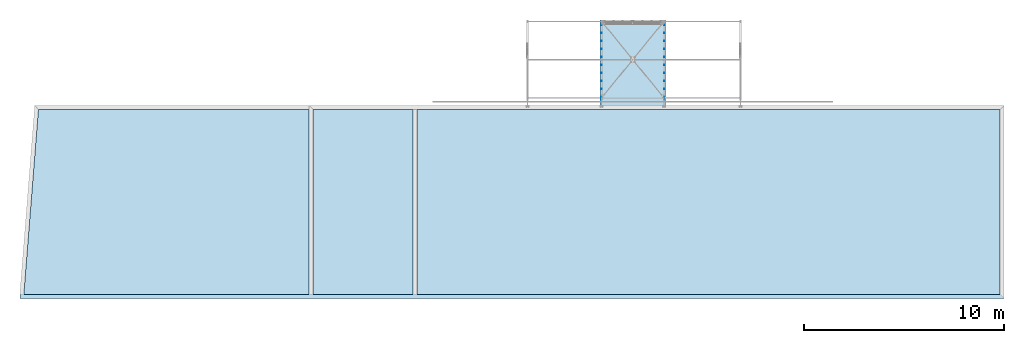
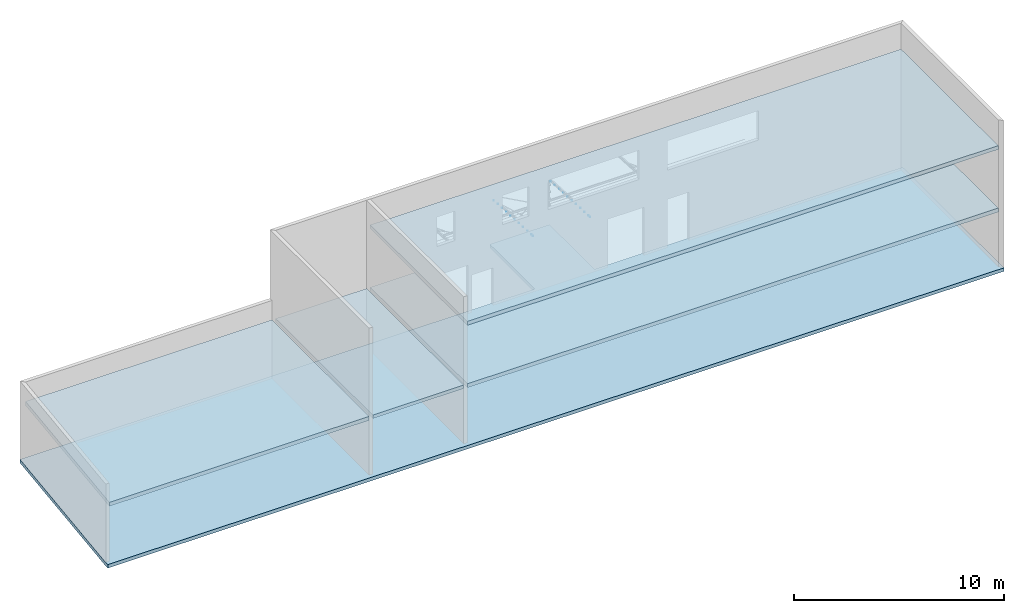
# One storey, part 5 of 10: 5 slabs, 2 mechanical fasteners, 5 elements without a shape of their own.
"""IFC2X3 building model written with IfcOpenShell, lengths in millimetres."""

from ifc_helpers import new_model, si_unit, frame, frame_2d, origin_with_axes, place, context, subcontext, project, spatial, polyline, circle_curve, parameter, trimmed, segment, composite_curve, outline, extrude, source, transform, mapped, material, type_object, element, aggregate, save


model = new_model("IFC2X3")

# Units and contexts
model_context = context("Model", 3, precision=1e-05, world=origin_with_axes())
body_context = subcontext(model_context, "Body", "Model", "MODEL_VIEW")
ifc_project = project(units=[si_unit("LENGTHUNIT", "METRE", prefix="MILLI"), si_unit("AREAUNIT", "SQUARE_METRE"), si_unit("VOLUMEUNIT", "CUBIC_METRE"), si_unit("MASSUNIT", "GRAM", prefix="KILO"), si_unit("TIMEUNIT", "SECOND"), si_unit("PLANEANGLEUNIT", "RADIAN"), si_unit("SOLIDANGLEUNIT", "STERADIAN"), si_unit("THERMODYNAMICTEMPERATUREUNIT", "DEGREE_CELSIUS"), si_unit("LUMINOUSINTENSITYUNIT", "LUMEN")], contexts=[model_context])

# Site, building, storey
site_placement = place(None, origin_with_axes())
site = spatial("IfcSite", under=ifc_project, at=site_placement, Name="Undefined", CompositionType="ELEMENT")
building_placement = place(site_placement, origin_with_axes())
building = spatial("IfcBuilding", under=site, at=building_placement, Name="Undefined", CompositionType="ELEMENT")
storey_placement = place(building_placement, origin_with_axes())
storey = spatial("IfcBuildingStorey", under=building, at=storey_placement, Name="Undefined", CompositionType="ELEMENT", Elevation=0.0)

# Assembly, slab
assembly_1_placement = place(storey_placement, origin_with_axes())
assembly_1 = element("IfcElementAssembly", 1, at=assembly_1_placement, inside=storey, Name="DALLE", AssemblyPlace="NOTDEFINED", PredefinedType="REINFORCEMENT_UNIT")
ifc_material_1 = material(Name="CONCRETE/C25/30")
slab_type_1 = type_object("IfcSlabType", Name="200*5000", PredefinedType="NOTDEFINED")
slab_1_placement = place(assembly_1_placement, frame((14455.0, 24839.9999999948, 3325.0), z_axis=(0.0, 0.0, 1.0), x_axis=(-8.92000021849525e-07, -0.999999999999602, 0.0)))
slab_1 = element("IfcSlab", 2, at=slab_1_placement, type_object=slab_type_1, material=ifc_material_1, Name="DALLE", ObjectType="200*5000", PredefinedType="FLOOR", context=body_context, shape_type="SweptSolid", body=[
    extrude(outline(polyline([(0.0, 0.0), (9250.0, 3.63797880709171e-12), (9250.0009765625, 4999.998046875), (0.000105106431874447, 5000.0), (0.0, 0.0)])), frame((-2.18278728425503e-10, 2.72848410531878e-10, -100.0), z_axis=(0.0, 0.0, 1.0), x_axis=(1.0, 0.0, 0.0)), (0.0, 0.0, 1.0), 200.0),
])
aggregate(assembly_1, [slab_1])

assembly_2_placement = place(storey_placement, origin_with_axes())
assembly_2 = element("IfcElementAssembly", 3, at=assembly_2_placement, inside=storey, Name="DALLE", AssemblyPlace="NOTDEFINED", PredefinedType="REINFORCEMENT_UNIT")
slab_type_2 = type_object("IfcSlabType", Name="200*13930", PredefinedType="NOTDEFINED")
slab_2_placement = place(assembly_2_placement, frame((521.592823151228, 25040.0000000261, -100.0), z_axis=(0.0, 0.0, 1.0), x_axis=(-0.0788018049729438, -0.996890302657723, 0.0)))
slab_2 = element("IfcSlab", 4, at=slab_2_placement, type_object=slab_type_2, material=ifc_material_1, Name="DALLE", ObjectType="200*13930", PredefinedType="FLOOR", context=body_context, shape_type="SweptSolid", body=[
    extrude(outline(polyline([(0.0, 0.0), (9347.4101561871, -3.21924744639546e-08), (9678.03613274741, 26.1351794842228), (5797.20556643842, 49120.988281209), (-3822.78637685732, 48360.5507812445), (-2487.88403314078, 31473.2304687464), (-6754.57421865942, 31135.9570312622), (-6496.1044921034, 27866.1582031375), (-2229.41406244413, 28203.4296874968), (0.0, 0.0)])), frame((-2.18278728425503e-10, 2.72848410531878e-10, -100.0), z_axis=(0.0, 0.0, 1.0), x_axis=(1.0, 0.0, 0.0)), (0.0, 0.0, 1.0), 200.0),
])
aggregate(assembly_2, [slab_2])

assembly_3_placement = place(storey_placement, origin_with_axes())
assembly_3 = element("IfcElementAssembly", 5, at=assembly_3_placement, inside=storey, Name="DALLE", AssemblyPlace="NOTDEFINED", PredefinedType="REINFORCEMENT_UNIT")
slab_type_3 = type_object("IfcSlabType", Name="230*9250", PredefinedType="NOTDEFINED")
slab_3_placement = place(assembly_3_placement, frame((19655.0, 24839.9999999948, 3310.0), z_axis=(0.0, 0.0, 1.0), x_axis=(-8.92000021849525e-07, -0.999999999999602, 0.0)))
slab_3 = element("IfcSlab", 6, at=slab_3_placement, type_object=slab_type_3, material=ifc_material_1, Name="DALLE", ObjectType="230*9250", PredefinedType="FLOOR", context=body_context, shape_type="SweptSolid", body=[
    extrude(outline(polyline([(0.0, 0.0), (9250.0, 3.63797880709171e-12), (9250.0009765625, 29177.998046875), (0.000105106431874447, 29178.0), (0.0, 0.0)])), frame((0.0, 0.0, -115.0), z_axis=(0.0, 0.0, 1.0), x_axis=(1.0, 0.0, 0.0)), (0.0, 0.0, 1.0), 230.0),
])
aggregate(assembly_3, [slab_3])

assembly_4_placement = place(storey_placement, origin_with_axes())
assembly_4 = element("IfcElementAssembly", 7, at=assembly_4_placement, inside=storey, Name="DALLE", AssemblyPlace="NOTDEFINED", PredefinedType="REINFORCEMENT_UNIT")
slab_4_placement = place(assembly_4_placement, frame((706.407178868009, 24839.9999996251, 3310.0), z_axis=(0.0, 0.0, 1.0), x_axis=(-0.0788018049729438, -0.996890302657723, 0.0)))
slab_4 = element("IfcSlab", 8, at=slab_4_placement, type_object=slab_type_3, material=ifc_material_1, Name="DALLE", ObjectType="230*9250", PredefinedType="FLOOR", context=body_context, shape_type="SweptSolid", body=[
    extrude(outline(polyline([(0.0, 0.0), (9278.85351568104, 3.96833002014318e-08), (8153.59130869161, 14235.3720703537), (-1067.64440914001, 13506.4628906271), (0.0, 0.0)])), frame((0.0, 0.0, -115.0), z_axis=(0.0, 0.0, 1.0), x_axis=(1.0, 0.0, 0.0)), (0.0, 0.0, 1.0), 230.0),
])
aggregate(assembly_4, [slab_4])

assembly_5_placement = place(storey_placement, origin_with_axes())
assembly_5 = element("IfcElementAssembly", 9, at=assembly_5_placement, inside=storey, Name="DALLE", AssemblyPlace="NOTDEFINED", PredefinedType="REINFORCEMENT_UNIT")
slab_type_4 = type_object("IfcSlabType", Name="220*9250", PredefinedType="NOTDEFINED")
slab_5_placement = place(assembly_5_placement, frame((19655.0, 24839.9999999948, 6940.0), z_axis=(0.0, 0.0, 1.0), x_axis=(-8.92000021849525e-07, -0.999999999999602, 0.0)))
slab_5 = element("IfcSlab", 10, at=slab_5_placement, type_object=slab_type_4, material=ifc_material_1, Name="DALLE", ObjectType="220*9250", PredefinedType="FLOOR", context=body_context, shape_type="SweptSolid", body=[
    extrude(outline(polyline([(0.0, 0.0), (9250.0, 3.63797880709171e-12), (9250.0009765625, 29177.998046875), (0.000105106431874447, 29178.0), (0.0, 0.0)])), frame((0.0, 0.0, -110.0), z_axis=(0.0, 0.0, 1.0), x_axis=(1.0, 0.0, 0.0)), (0.0, 0.0, 1.0), 220.0),
])
aggregate(assembly_5, [slab_5])

# Mechanical fasteners
ifc_material_2 = material(Name="#_SB-8.8-ZINGUE")
mechanical_fastener_type = type_object("IfcMechanicalFastenerType", Name="Bolt assembly")
shared_shape_1 = source(origin_with_axes(), body_context, "Body", "SweptSolid", [
    extrude(outline(composite_curve([segment(polyline([(-7.0, 7.0), (7.0, 7.0)]), True, "CONTINUOUS"), segment(trimmed(circle_curve(frame_2d((7.0, 0.0), x_axis=(0.0, 1.0)), 7.0), [parameter(0.0)], [parameter(3.14159265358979)], False, "PARAMETER"), True, "CONTINUOUS"), segment(polyline([(7.0, -7.0), (-7.0, -7.0)]), True, "CONTINUOUS"), segment(trimmed(circle_curve(frame_2d((-7.0, 0.0), x_axis=(0.0, -1.0)), 7.0), [parameter(0.0)], [parameter(3.14159265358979)], False, "PARAMETER"), True, "DISCONTINUOUS")], self_intersect=False)), frame((0.0, 0.0, 0.0), z_axis=(0.0, 1.0, 0.0), x_axis=(1.0, 0.0, 0.0)), (0.0, 0.0, 1.0), 7.5),
])
mechanical_fastener_1_placement = place(storey_placement, frame((32024.0000011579, 29060.1369729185, 2687.2020481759), z_axis=(-1.0, 0.0, 0.0), x_axis=(0.0, -0.998630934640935, 0.0523092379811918)))
element("IfcMechanicalFastener", 11, at=mechanical_fastener_1_placement, inside=storey, type_object=mechanical_fastener_type, material=ifc_material_2, Name="Bolt assembly", NominalDiameter=12.0, NominalLength=7.40000009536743, context=body_context, shape_type="MappedRepresentation", body=[
    mapped(shared_shape_1, transform((0.0, 0.0, 0.0))),
    mapped(shared_shape_1, transform((400.0, 0.0, 0.0))),
    mapped(shared_shape_1, transform((800.0, 0.0, 0.0))),
    mapped(shared_shape_1, transform((1200.0, 0.0, 0.0))),
    mapped(shared_shape_1, transform((1600.0, 0.0, 0.0))),
    mapped(shared_shape_1, transform((2000.0, 0.0, 0.0))),
    mapped(shared_shape_1, transform((2400.00000000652, -2.00816430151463e-09, 0.0))),
    mapped(shared_shape_1, transform((2800.0000000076, -2.34285835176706e-09, 0.0))),
    mapped(shared_shape_1, transform((3200.00000000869, -2.6775524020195e-09, 0.0))),
    mapped(shared_shape_1, transform((3600.00000000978, -3.01224645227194e-09, 0.0))),
    mapped(shared_shape_1, transform((3730.00000001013, -3.12138581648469e-09, 0.0))),
])
shared_shape_2 = source(origin_with_axes(), body_context, "Body", "SweptSolid", [
    extrude(outline(composite_curve([segment(polyline([(-7.0, 7.0), (7.0, 7.0)]), True, "CONTINUOUS"), segment(trimmed(circle_curve(frame_2d((7.0, 0.0), x_axis=(0.0, 1.0)), 7.0), [parameter(0.0)], [parameter(3.14159265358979)], False, "PARAMETER"), True, "CONTINUOUS"), segment(polyline([(7.0, -7.0), (-7.0, -7.0)]), True, "CONTINUOUS"), segment(trimmed(circle_curve(frame_2d((-7.0, 0.0), x_axis=(0.0, -1.0)), 7.0), [parameter(0.0)], [parameter(3.14159265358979)], False, "PARAMETER"), True, "DISCONTINUOUS")], self_intersect=False)), frame((0.0, 0.0, 0.0), z_axis=(0.0, 1.0, 0.0), x_axis=(1.0, 0.0, 0.0)), (0.0, 0.0, 1.0), 7.5),
])
mechanical_fastener_2_placement = place(storey_placement, frame((28882.0000011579, 29060.1369729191, 2687.20204817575), z_axis=(-1.0, 0.0, 0.0), x_axis=(0.0, -0.998630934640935, 0.0523092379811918)))
element("IfcMechanicalFastener", 12, at=mechanical_fastener_2_placement, inside=storey, type_object=mechanical_fastener_type, material=ifc_material_2, Name="Bolt assembly", NominalDiameter=12.0, NominalLength=7.40000009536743, context=body_context, shape_type="MappedRepresentation", body=[
    mapped(shared_shape_2, transform((0.0, 0.0, 0.0))),
    mapped(shared_shape_2, transform((400.0, 0.0, 0.0))),
    mapped(shared_shape_2, transform((800.0, 0.0, 0.0))),
    mapped(shared_shape_2, transform((1200.0, 0.0, 0.0))),
    mapped(shared_shape_2, transform((1600.0, 0.0, 0.0))),
    mapped(shared_shape_2, transform((2000.0, 0.0, 0.0))),
    mapped(shared_shape_2, transform((2400.00000000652, -2.00816430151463e-09, 0.0))),
    mapped(shared_shape_2, transform((2800.0000000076, -2.34285835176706e-09, 0.0))),
    mapped(shared_shape_2, transform((3200.00000000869, -2.6775524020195e-09, 0.0))),
    mapped(shared_shape_2, transform((3600.00000000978, -3.01224645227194e-09, 0.0))),
    mapped(shared_shape_2, transform((3730.00000001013, -3.12138581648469e-09, 0.0))),
])

save(model, "model.ifc")
